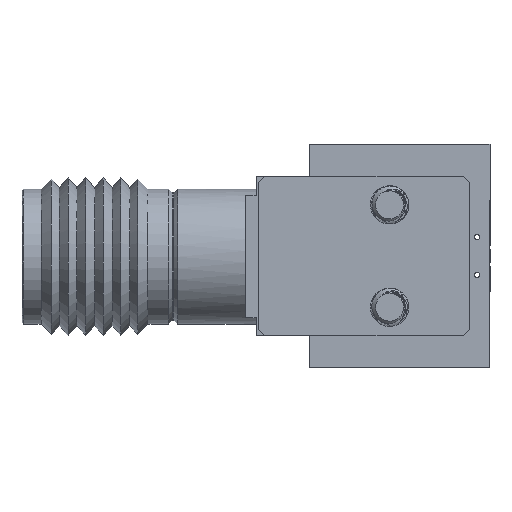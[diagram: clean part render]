
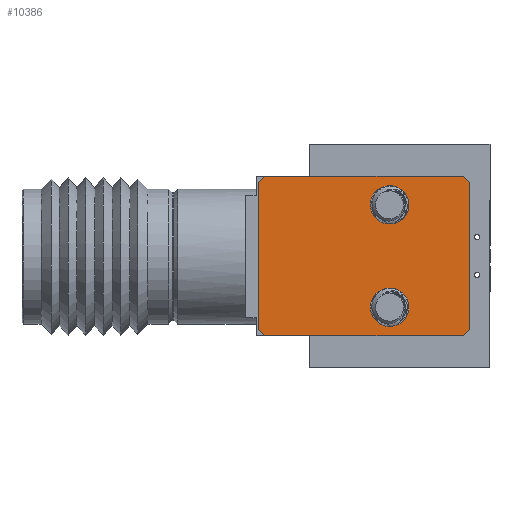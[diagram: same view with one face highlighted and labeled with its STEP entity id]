
A CAD part, front view. The second image highlights one B-rep face of the part: STEP entity #10386.
In plain terms, the highlighted planar face has unit normal (0, -1, 0) as drawn and (0, 0, -1) by its records, which use the part's own axes.
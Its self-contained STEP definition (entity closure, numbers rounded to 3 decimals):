
#9 = DIRECTION ( 'NONE',  ( -0.707, 0.707, 0. ) ) ;
#64 = EDGE_CURVE ( 'NONE', #14559, #8603, #12510, .T. ) ;
#76 = DIRECTION ( 'NONE',  ( 0.707, 0.707, 0. ) ) ;
#280 = CARTESIAN_POINT ( 'NONE',  ( -4.064, -4.064, 0. ) ) ;
#690 = AXIS2_PLACEMENT_3D ( 'NONE', #17603, #13714, #5278 ) ;
#698 = CARTESIAN_POINT ( 'NONE',  ( -4.953, 3.175, 0. ) ) ;
#945 = CARTESIAN_POINT ( 'NONE',  ( 3.048, 3.048, 0. ) ) ;
#1180 = CARTESIAN_POINT ( 'NONE',  ( 3.175, -2.921, 0. ) ) ;
#1328 = DIRECTION ( 'NONE',  ( 0., -1., 0. ) ) ;
#1347 = VECTOR ( 'NONE', #9, 1000. ) ;
#1404 = ORIENTED_EDGE ( 'NONE', *, *, #7790, .T. ) ;
#1627 = ORIENTED_EDGE ( 'NONE', *, *, #17417, .F. ) ;
#1667 = VECTOR ( 'NONE', #15163, 1000. ) ;
#1906 = VERTEX_POINT ( 'NONE', #8450 ) ;
#2423 = LINE ( 'NONE', #5424, #7699 ) ;
#2576 = LINE ( 'NONE', #16350, #12926 ) ;
#2600 = ORIENTED_EDGE ( 'NONE', *, *, #6466, .T. ) ;
#2799 = CARTESIAN_POINT ( 'NONE',  ( -5.207, 2.921, 0. ) ) ;
#3583 = DIRECTION ( 'NONE',  ( 0., 0., 1. ) ) ;
#3887 = VERTEX_POINT ( 'NONE', #698 ) ;
#4034 = DIRECTION ( 'NONE',  ( 0.707, -0.707, 0. ) ) ;
#4135 = PLANE ( 'NONE',  #10766 ) ;
#4502 = FACE_OUTER_BOUND ( 'NONE', #7989, .T. ) ;
#4659 = ORIENTED_EDGE ( 'NONE', *, *, #9328, .F. ) ;
#5212 = LINE ( 'NONE', #945, #10234 ) ;
#5278 = DIRECTION ( 'NONE',  ( 1., 0., 0. ) ) ;
#5281 = CARTESIAN_POINT ( 'NONE',  ( 3.048, -3.048, 0. ) ) ;
#5382 = LINE ( 'NONE', #5281, #7367 ) ;
#5424 = CARTESIAN_POINT ( 'NONE',  ( -5.207, 6.592, 0. ) ) ;
#5763 = CARTESIAN_POINT ( 'NONE',  ( 0., 0., 0. ) ) ;
#5826 = EDGE_CURVE ( 'NONE', #5898, #5898, #8231, .T. ) ;
#5898 = VERTEX_POINT ( 'NONE', #11500 ) ;
#5902 = VERTEX_POINT ( 'NONE', #10873 ) ;
#6354 = ORIENTED_EDGE ( 'NONE', *, *, #64, .T. ) ;
#6410 = AXIS2_PLACEMENT_3D ( 'NONE', #9049, #3583, #17077 ) ;
#6466 = EDGE_CURVE ( 'NONE', #5902, #9324, #14657, .T. ) ;
#6580 = EDGE_LOOP ( 'NONE', ( #10011 ) ) ;
#6589 = EDGE_CURVE ( 'NONE', #1906, #5902, #5212, .T. ) ;
#6900 = EDGE_CURVE ( 'NONE', #17569, #17569, #11985, .T. ) ;
#7025 = DIRECTION ( 'NONE',  ( 0., 0., -1. ) ) ;
#7243 = CARTESIAN_POINT ( 'NONE',  ( -5.207, -2.921, 0. ) ) ;
#7347 = ORIENTED_EDGE ( 'NONE', *, *, #11819, .F. ) ;
#7367 = VECTOR ( 'NONE', #10620, 1000. ) ;
#7699 = VECTOR ( 'NONE', #1328, 1000. ) ;
#7754 = VERTEX_POINT ( 'NONE', #2799 ) ;
#7790 = EDGE_CURVE ( 'NONE', #7754, #3887, #15154, .T. ) ;
#7989 = EDGE_LOOP ( 'NONE', ( #1627, #1404, #4659, #9695, #2600, #11834, #7347, #6354 ) ) ;
#8231 = CIRCLE ( 'NONE', #690, 0.596 ) ;
#8450 = CARTESIAN_POINT ( 'NONE',  ( 2.921, 3.175, 0. ) ) ;
#8603 = VERTEX_POINT ( 'NONE', #7243 ) ;
#9047 = CARTESIAN_POINT ( 'NONE',  ( -4.953, -3.175, 0. ) ) ;
#9049 = CARTESIAN_POINT ( 'NONE',  ( 0., 2.032, 0. ) ) ;
#9324 = VERTEX_POINT ( 'NONE', #1180 ) ;
#9328 = EDGE_CURVE ( 'NONE', #1906, #3887, #15253, .T. ) ;
#9695 = ORIENTED_EDGE ( 'NONE', *, *, #6589, .T. ) ;
#10011 = ORIENTED_EDGE ( 'NONE', *, *, #6900, .T. ) ;
#10077 = DIRECTION ( 'NONE',  ( -1., 0., 0. ) ) ;
#10234 = VECTOR ( 'NONE', #4034, 1000. ) ;
#10386 = ADVANCED_FACE ( 'NONE', ( #17004, #16728, #4502 ), #4135, .T. ) ;
#10620 = DIRECTION ( 'NONE',  ( -0.707, -0.707, 0. ) ) ;
#10766 = AXIS2_PLACEMENT_3D ( 'NONE', #5763, #7025, #10077 ) ;
#10873 = CARTESIAN_POINT ( 'NONE',  ( 3.175, 2.921, 0. ) ) ;
#10947 = CARTESIAN_POINT ( 'NONE',  ( -4.064, 4.064, 0. ) ) ;
#11500 = CARTESIAN_POINT ( 'NONE',  ( 0.596, -2.032, 0. ) ) ;
#11819 = EDGE_CURVE ( 'NONE', #14559, #13408, #2576, .T. ) ;
#11834 = ORIENTED_EDGE ( 'NONE', *, *, #15867, .T. ) ;
#11904 = DIRECTION ( 'NONE',  ( 0., -1., 0. ) ) ;
#11985 = CIRCLE ( 'NONE', #6410, 0.596 ) ;
#12485 = VECTOR ( 'NONE', #76, 1000. ) ;
#12510 = LINE ( 'NONE', #280, #1347 ) ;
#12926 = VECTOR ( 'NONE', #17973, 1000. ) ;
#13210 = CARTESIAN_POINT ( 'NONE',  ( 3.175, 5.554, 0. ) ) ;
#13408 = VERTEX_POINT ( 'NONE', #16421 ) ;
#13714 = DIRECTION ( 'NONE',  ( 0., 0., 1. ) ) ;
#13789 = CARTESIAN_POINT ( 'NONE',  ( -2.921, 3.175, 0. ) ) ;
#14515 = CARTESIAN_POINT ( 'NONE',  ( 0.596, 2.032, 0. ) ) ;
#14559 = VERTEX_POINT ( 'NONE', #9047 ) ;
#14657 = LINE ( 'NONE', #13210, #16914 ) ;
#15154 = LINE ( 'NONE', #10947, #12485 ) ;
#15163 = DIRECTION ( 'NONE',  ( -1., 0., 0. ) ) ;
#15253 = LINE ( 'NONE', #13789, #1667 ) ;
#15867 = EDGE_CURVE ( 'NONE', #9324, #13408, #5382, .T. ) ;
#16341 = EDGE_LOOP ( 'NONE', ( #16729 ) ) ;
#16350 = CARTESIAN_POINT ( 'NONE',  ( -2.921, -3.175, 0. ) ) ;
#16421 = CARTESIAN_POINT ( 'NONE',  ( 2.921, -3.175, 0. ) ) ;
#16728 = FACE_BOUND ( 'NONE', #16341, .T. ) ;
#16729 = ORIENTED_EDGE ( 'NONE', *, *, #5826, .T. ) ;
#16914 = VECTOR ( 'NONE', #11904, 1000. ) ;
#17004 = FACE_BOUND ( 'NONE', #6580, .T. ) ;
#17077 = DIRECTION ( 'NONE',  ( 1., 0., 0. ) ) ;
#17417 = EDGE_CURVE ( 'NONE', #7754, #8603, #2423, .T. ) ;
#17569 = VERTEX_POINT ( 'NONE', #14515 ) ;
#17603 = CARTESIAN_POINT ( 'NONE',  ( 0., -2.032, 0. ) ) ;
#17973 = DIRECTION ( 'NONE',  ( 1., 0., 0. ) ) ;
